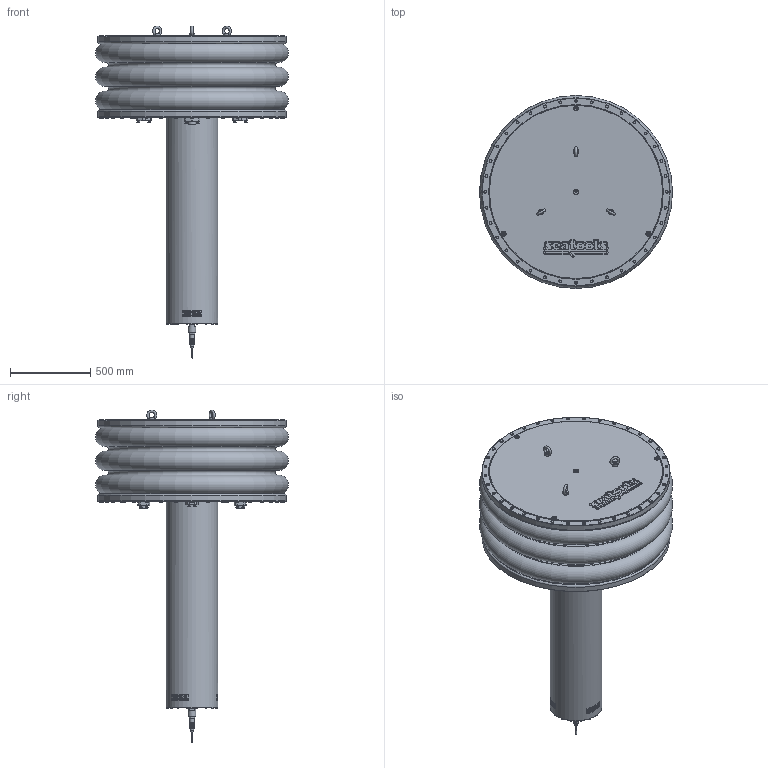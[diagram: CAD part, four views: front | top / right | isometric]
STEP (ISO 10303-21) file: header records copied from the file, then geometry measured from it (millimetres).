
FILE_DESCRIPTION(/* description */ ('Bellows Compensator 250L'),/* implementation_level */ '2;1');
FILE_NAME(/* name */ 'C:\Users\Mathijs\Desktop\Steps\ME-0271-0011-Full.stp',/* time_stamp */ '2018-02-16T10:31:21+01:00',/* author */ ('Mathijs'),/* organization */ ('Seatools'),/* preprocessor_version */ 'ST-DEVELOPER v16.1',/* originating_system */ 'Autodesk Inventor 2016',/* authorisation */ '');
FILE_SCHEMA (('AUTOMOTIVE_DESIGN { 1 0 10303 214 3 1 1 }'));
Length unit declared in the file: millimetre
Products named in the file (1): ME-0271-0011-Full
Bounding box: 1199.61 x 1199.61 x 2063.5 mm (x, y, z)
Volume: 640898439.5 mm3; surface area: 6634628.6 mm2
Topology: 1 solids, 13 shells, 3562 faces, 8663 edges, 5578 vertices
Faces by surface type: plane 1753, cylinder 577, bspline 572, cone 571, torus 89
Full cylindrical faces by diameter (mm): 7 x4, 8 x4, 8.376 x72, 10 x16, 10.106 x24, 11 x1, 15.4 x72, 16 x3, 18 x16, 18.631 x6, 20 x1, 25 x1, 25.5 x1, 26 x7, 28 x1, 28.575 x3, 31 x7, 31.6 x1, 32 x1, 33 x1, 35 x4, 36 x1, 38 x4, 47 x1, 48.6 x2, 120 x4, 322 x1, 323 x1, 1170 x2
Entity records: 117698 total; most frequent: CARTESIAN_POINT 39075, ORIENTED_EDGE 16044, DIRECTION 13853, EDGE_CURVE 8022, VERTEX_POINT 5395, AXIS2_PLACEMENT_3D 5149, EDGE_LOOP 4479, FACE_OUTER_BOUND 3559
